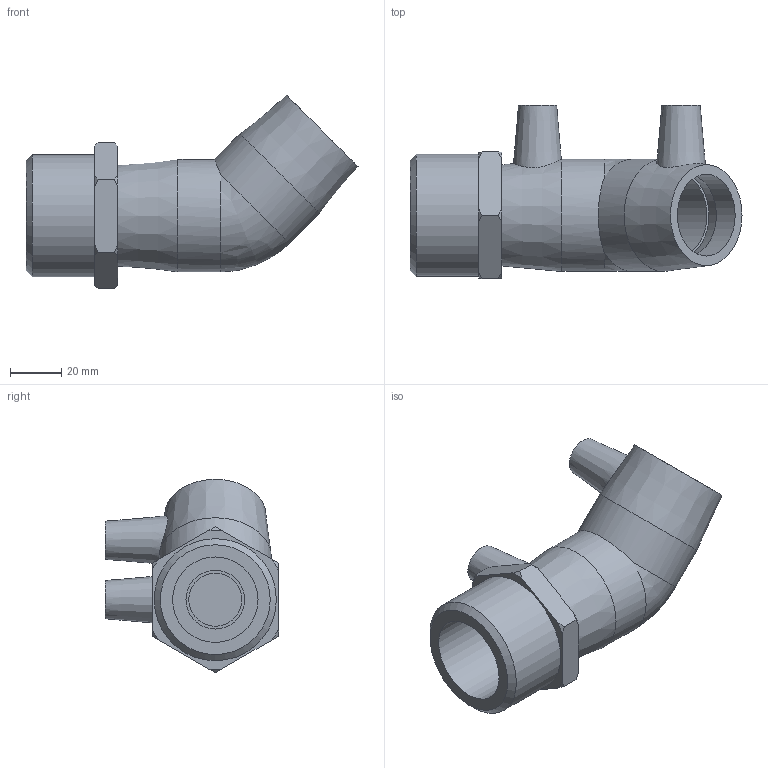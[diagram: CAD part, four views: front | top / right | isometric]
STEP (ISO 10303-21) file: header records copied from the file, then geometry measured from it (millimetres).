
FILE_DESCRIPTION(/* description */ ('PLASSON 45° ELBOW TRANSITION MALE 32-1.1/2"'),/* implementation_level */ '2;1');
FILE_NAME(/* name */ 'C:\Dropbox\KIMPROJECTS-Inventor\99-16-3568-Processing\ElectroFusion Fittings\02.02.20\492604\492604032015.ipt.stp',/* time_stamp */ '2020-02-02T12:19:54+02:00',/* author */ ('KIM'),/* organization */ (''),/* preprocessor_version */ 'ST-DEVELOPER v15.6',/* originating_system */ 'Autodesk Inventor 2015',/* authorisation */ '');
FILE_SCHEMA (('AUTOMOTIVE_DESIGN { 1 0 10303 214 3 1 1 }'));
Length unit declared in the file: millimetre
Products named in the file (1): 492604032015
Bounding box: 130 x 67.77 x 75.74 mm (x, y, z)
Volume: 131045.3 mm3; surface area: 38299.9 mm2
Topology: 1 solids, 2 shells, 59 faces, 133 edges, 88 vertices
Faces by surface type: plane 24, cone 19, cylinder 15, bspline 1
Full cylindrical faces by diameter (mm): 4 x2, 10 x2, 20.8 x2, 23 x1, 32 x4, 33.462 x1, 44 x2, 47.803 x1
Entity records: 1500 total; most frequent: CARTESIAN_POINT 369, DIRECTION 236, ORIENTED_EDGE 188, AXIS2_PLACEMENT_3D 109, EDGE_LOOP 97, EDGE_CURVE 94, VERTEX_POINT 75, FACE_OUTER_BOUND 59
